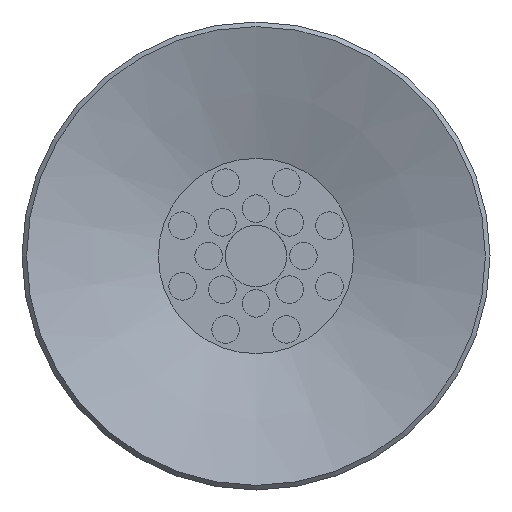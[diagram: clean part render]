
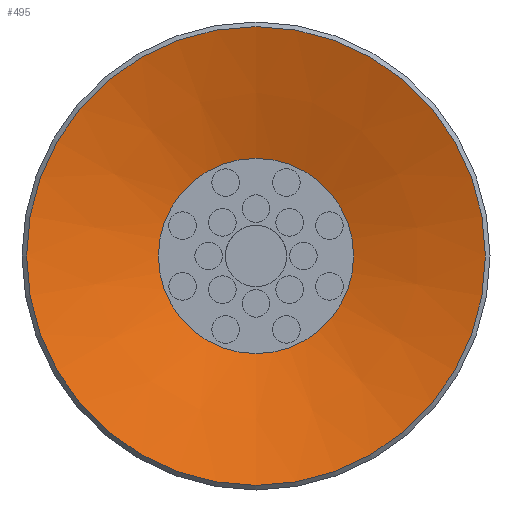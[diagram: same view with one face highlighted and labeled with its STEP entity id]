
A CAD part, front view. The second image highlights one B-rep face of the part: STEP entity #495.
In plain terms, the highlighted conical face has half-angle 72 degrees and reference radius 7.5 mm.
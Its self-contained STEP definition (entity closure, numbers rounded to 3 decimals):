
#495=ADVANCED_FACE('',(#778,#779),#780,.F.);
#778=FACE_BOUND('',#1158,.T.);
#779=FACE_OUTER_BOUND('',#1159,.T.);
#780=CONICAL_SURFACE('',#1160,7.5,1.257);
#1158=EDGE_LOOP('',(#1981));
#1159=EDGE_LOOP('',(#1982));
#1160=AXIS2_PLACEMENT_3D('',#1983,#1984,#1985);
#1981=ORIENTED_EDGE('',*,*,#2418,.T.);
#1982=ORIENTED_EDGE('',*,*,#2419,.F.);
#1983=CARTESIAN_POINT('',(0.0,0.,0.));
#1984=DIRECTION('',(0.0,0.,-1.0));
#1985=DIRECTION('',(0.0,1.0,0.));
#2418=EDGE_CURVE('',#2788,#2788,#2789,.T.);
#2419=EDGE_CURVE('',#2790,#2790,#2791,.T.);
#2788=VERTEX_POINT('',#3630);
#2789=CIRCLE('',#3631,3.191);
#2790=VERTEX_POINT('',#3632);
#2791=CIRCLE('',#3633,7.5);
#3630=CARTESIAN_POINT('',(0.0,-3.191,1.4));
#3631=AXIS2_PLACEMENT_3D('',#3988,#3989,#3990);
#3632=CARTESIAN_POINT('',(0.0,-7.5,0.));
#3633=AXIS2_PLACEMENT_3D('',#3991,#3992,#3993);
#3988=CARTESIAN_POINT('',(0.0,0.,1.4));
#3989=DIRECTION('',(0.0,0.,1.0));
#3990=DIRECTION('',(0.0,-1.0,0.));
#3991=CARTESIAN_POINT('',(0.0,0.,0.));
#3992=DIRECTION('',(0.0,0.,1.0));
#3993=DIRECTION('',(0.0,-1.0,0.));
